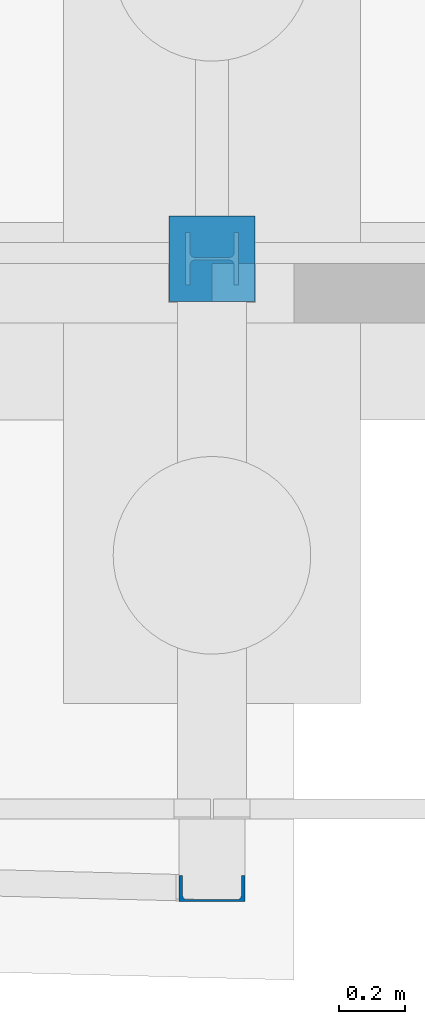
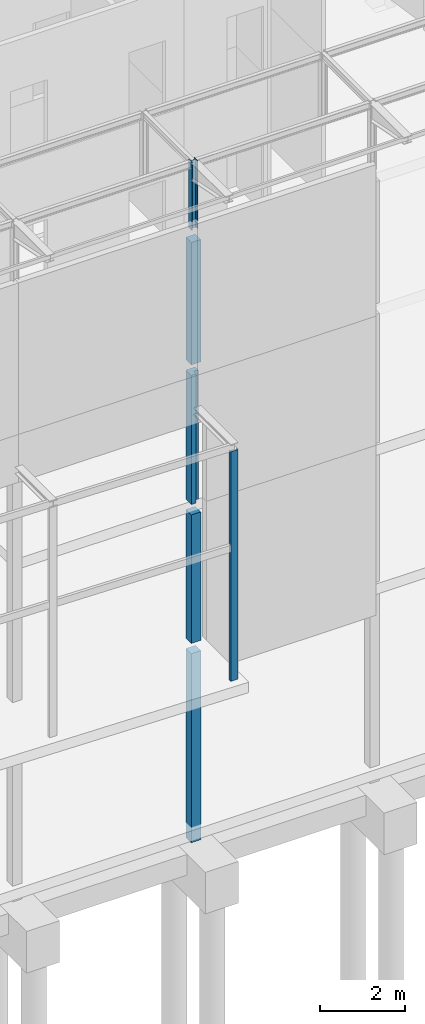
# One storey, part 42 of 82: 6 columns.
"""IFC2X3 building model written with IfcOpenShell, lengths in millimetres."""

from ifc_helpers import new_model, si_unit, frame, frame_2d, origin_with_axes, place, context, subcontext, project, spatial, polyline, rectangle, i_section, u_section, outline, extrude, boolean, material, type_object, element, save


model = new_model("IFC2X3")

# Units and contexts
model_context = context("Model", 3, precision=1e-05, world=origin_with_axes())
body_context = subcontext(model_context, "Body", "Model", "MODEL_VIEW")
ifc_project = project(units=[si_unit("LENGTHUNIT", "METRE", prefix="MILLI"), si_unit("AREAUNIT", "SQUARE_METRE"), si_unit("VOLUMEUNIT", "CUBIC_METRE"), si_unit("MASSUNIT", "GRAM", prefix="KILO"), si_unit("TIMEUNIT", "SECOND"), si_unit("PLANEANGLEUNIT", "RADIAN"), si_unit("SOLIDANGLEUNIT", "STERADIAN"), si_unit("THERMODYNAMICTEMPERATUREUNIT", "DEGREE_CELSIUS"), si_unit("LUMINOUSINTENSITYUNIT", "LUMEN")], contexts=[model_context])

# Site, building, storey
site_placement = place(None, origin_with_axes())
site = spatial("IfcSite", under=ifc_project, at=site_placement, Name="Undefined", CompositionType="ELEMENT")
building_placement = place(site_placement, origin_with_axes())
building = spatial("IfcBuilding", under=site, at=building_placement, Name="Undefined", CompositionType="ELEMENT")
storey_placement = place(building_placement, origin_with_axes())
storey = spatial("IfcBuildingStorey", under=building, at=storey_placement, Name="Undefined", CompositionType="ELEMENT", Elevation=0.0)

# Columns
ifc_material_1 = material(Name="CONCRETE/C25/30")
column_type_1 = type_object("IfcColumnType", Name="260*260", PredefinedType="NOTDEFINED")
column_1_placement = place(storey_placement, frame((51974.9999999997, -5.37270068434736e-08, 13330.0), z_axis=(0.0, 0.0, 1.0), x_axis=(1.0, 0.0, 0.0)))
element("IfcColumn", 1, at=column_1_placement, inside=storey, type_object=column_type_1, material=ifc_material_1, Name="POTEAU", ObjectType="260*260", context=body_context, shape_type="SweptSolid", body=[
    extrude(rectangle(XDim=260.0, YDim=260.0, at=frame_2d((5.17284206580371e-08, 4.49290382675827e-10), x_axis=(1.0, 0.0))), frame((0.0, 0.0, 3529.99999999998), z_axis=(0.0, -6.50000002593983e-08, -0.999999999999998), x_axis=(-1.0, 0.0, 0.0)), (0.0, 0.0, 1.0), 3530.0),
])
column_2_placement = place(storey_placement, frame((51974.9999999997, -5.37492894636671e-08, 9305.0), z_axis=(0.0, 0.0, 1.0), x_axis=(1.0, 0.0, 0.0)))
solid = boolean("DIFFERENCE", extrude(rectangle(XDim=4874.99998420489, YDim=180.0, at=frame_2d((0.0, 2437.49999210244), x_axis=(0.0, -1.0))), frame((4874.99998511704, -104.999999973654, 0.0), z_axis=(0.0, 0.0, 1.0), x_axis=(0.0, 1.0, 0.0)), (0.0, 0.0, 1.0), 3725.0), extrude(outline(polyline([(5.17284206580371e-08, 4.49290382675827e-10), (249.434494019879, 4.18367562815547e-10), (249.418747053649, 14305.0000000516), (-0.0157491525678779, 14305.000000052), (5.17284206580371e-08, 4.49290382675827e-10)])), frame((9.12157702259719e-07, -192.499999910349, 2345.0), z_axis=(-2.77555756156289e-17, -1.0, 0.0), x_axis=(0.999999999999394, 0.0, -1.10100000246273e-06)), (0.0, 0.0, 1.0), 185.0))
element("IfcColumn", 2, at=column_2_placement, inside=storey, type_object=column_type_1, material=ifc_material_1, Name="POTEAU", ObjectType="260*260", context=body_context, shape_type="CSG", body=[
    boolean("DIFFERENCE", extrude(rectangle(XDim=260.0, YDim=260.0, at=frame_2d((5.17284206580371e-08, 4.49290382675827e-10), x_axis=(1.0, 0.0))), frame((0.0, 0.0, 3725.0), z_axis=(0.0, -6.50000002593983e-08, -0.999999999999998), x_axis=(-1.0, 0.0, 0.0)), (0.0, 0.0, 1.0), 3725.0), solid),
])
column_3_placement = place(storey_placement, frame((51974.9999999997, -5.37270068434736e-08, 5300.0), z_axis=(0.0, 0.0, 1.0), x_axis=(1.0, 0.0, 0.0)))
element("IfcColumn", 3, at=column_3_placement, inside=storey, type_object=column_type_1, material=ifc_material_1, Name="POTEAU", ObjectType="260*260", context=body_context, shape_type="SweptSolid", body=[
    extrude(rectangle(XDim=260.0, YDim=260.0, at=frame_2d((5.17284206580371e-08, 4.49290382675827e-10), x_axis=(1.0, 0.0))), frame((0.0, 0.0, 3705.00000000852), z_axis=(0.0, -6.50000002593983e-08, -0.999999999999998), x_axis=(-1.0, 0.0, 0.0)), (0.0, 0.0, 1.0), 3705.0),
])
column_4_placement = place(storey_placement, frame((51974.9999999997, -5.37270068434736e-08, -450.0), z_axis=(0.0, 0.0, 1.0), x_axis=(1.0, 0.0, 0.0)))
element("IfcColumn", 4, at=column_4_placement, inside=storey, type_object=column_type_1, material=ifc_material_1, Name="POTEAU", ObjectType="260*260", context=body_context, shape_type="SweptSolid", body=[
    extrude(rectangle(XDim=260.0, YDim=260.0, at=frame_2d((5.17284206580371e-08, 4.49290382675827e-10), x_axis=(1.0, 0.0))), frame((0.0, 0.0, 5450.00000000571), z_axis=(0.0, -6.50000002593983e-08, -0.999999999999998), x_axis=(-1.0, 0.0, 0.0)), (0.0, 0.0, 1.0), 5450.0),
])
ifc_material_2 = material(Name="STEEL/S275JR")
column_type_2 = type_object("IfcColumnType", Name="HEB160", PredefinedType="NOTDEFINED")
column_5_placement = place(storey_placement, frame((51975.0000000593, -9.20753961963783e-08, 17160.0), z_axis=(0.0, 0.0, 1.0), x_axis=(1.0, 0.0, 0.0)))
element("IfcColumn", 5, at=column_5_placement, inside=storey, type_object=column_type_2, material=ifc_material_2, Name="POTEAU", ObjectType="HEB160", context=body_context, shape_type="SweptSolid", body=[
    extrude(i_section(OverallWidth=160.0, OverallDepth=160.0, WebThickness=8.0, FlangeThickness=13.0, FilletRadius=15.0, at=frame_2d((5.17284206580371e-08, 4.49290382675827e-10), x_axis=(1.0, 0.0))), frame((0.0, 0.0, 1965.0), z_axis=(0.0, -6.50000002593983e-08, -0.999999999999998), x_axis=(-2.77555756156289e-17, -1.0, 0.0)), (0.0, 0.0, 1.0), 1965.0),
])
column_type_3 = type_object("IfcColumnType", Name="UPE200", PredefinedType="NOTDEFINED")
column_6_placement = place(storey_placement, frame((51974.9947095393, -1911.38228695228, 5299.99999999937), z_axis=(0.0, 0.0, 1.0), x_axis=(1.0, 0.0, 0.0)))
element("IfcColumn", 6, at=column_6_placement, inside=storey, type_object=column_type_3, material=ifc_material_2, Name="POUTRE", ObjectType="UPE200", context=body_context, shape_type="SweptSolid", body=[
    extrude(u_section(Depth=200.0, FlangeWidth=80.0, WebThickness=6.0, FlangeThickness=11.0, FilletRadius=13.0, at=frame_2d((5.17284206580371e-08, 4.49290382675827e-10), x_axis=(1.0, 0.0))), frame((0.0, 0.0, 6625.00000000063), z_axis=(0.0, -6.50000002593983e-08, -0.999999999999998), x_axis=(0.0, 1.0, 0.0)), (0.0, 0.0, 1.0), 6625.0),
])

save(model, "model.ifc")
